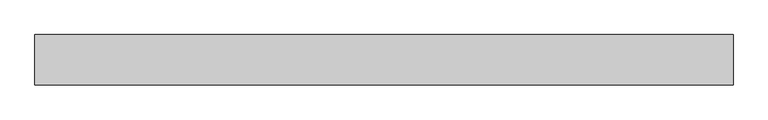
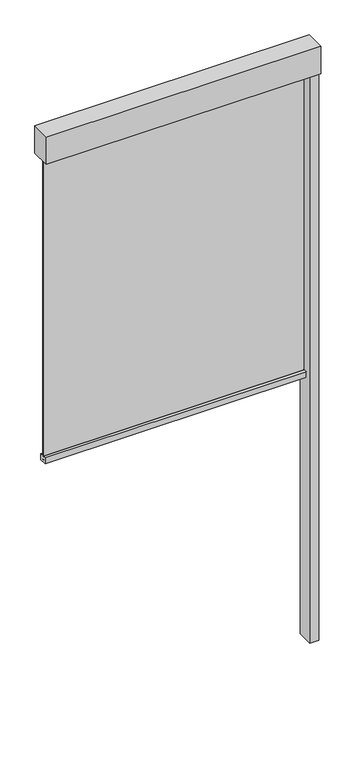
"""IFC4 building model written with IfcOpenShell, lengths in millimetres: proxy geometry, Renson_Fixscreen_Minimal_CW50_End : For curtain wall - End element - Access downwards - Fabric close to the window."""

from ifc_helpers import new_model, si_unit, point, frame, frame_2d, origin, origin_with_axes, place, context, project, spatial, polyline, circle_curve, trimmed, segment, composite_curve, outline, extrude, source, transform, mapped, element, save


def generic_models_74c36e77(model_context):
    return source(origin(), model_context, "Body", "SweptSolid", [
        extrude(outline(polyline([(530.0, -693.5959909), (530.0, -783.5959909), (480.0, -783.5959909), (480.0, -693.5959909), (530.0, -693.5959909)])), origin_with_axes(), (0.0, 0.0, 1.0), 3340.0),
        extrude(outline(polyline([(-995.0, -693.5959909), (530.0, -693.5959909), (530.0, -803.5959909), (-995.0, -803.5959909), (-995.0, -693.5959909)])), frame((0.0, 0.0, 3340.0), z_axis=(0.0, 0.0, 1.0), x_axis=(1.0, 0.0, 0.0)), (0.0, 0.0, 1.0), 160.0),
        extrude(outline(composite_curve([segment(polyline([(-708.5959909, 1540.0), (-749.0958874, 1540.0), (-749.0958874, 1574.1156826), (-731.9717779, 1575.0000198)]), True, "CONTINUOUS"), segment(trimmed(circle_curve(frame_2d((-731.9459909, 1574.5006852)), 0.5), [point((-731.9717779, 1575.0000198))], [point((-731.4459909, 1574.5006852))], False, "CARTESIAN"), True, "CONTINUOUS"), segment(polyline([(-731.4459909, 1574.5006852), (-731.4459909, 1573.5367989), (-732.7111292, 1573.5367989), (-731.9708257, 1569.0119223)]), True, "CONTINUOUS"), segment(trimmed(circle_curve(frame_2d((-771.4459909, 1562.5534911)), 40.0), [point((-731.9708257, 1569.0119223))], [point((-731.4459909, 1562.5534911))], False, "CARTESIAN"), True, "CONTINUOUS"), segment(polyline([(-731.4459909, 1562.5534911), (-731.4459909, 1554.5006852)]), True, "CONTINUOUS"), segment(trimmed(circle_curve(frame_2d((-729.4459909, 1554.5006852)), 2.0), [point((-731.4459909, 1554.5006852))], [point((-729.4459909, 1552.5006852))], True, "CARTESIAN"), True, "CONTINUOUS"), segment(polyline([(-729.4459909, 1552.5006852), (-727.7459909, 1552.5006852)]), True, "CONTINUOUS"), segment(trimmed(circle_curve(frame_2d((-727.7459909, 1554.5006852)), 2.0), [point((-727.7459909, 1552.5006852))], [point((-725.7459909, 1554.5006852))], True, "CARTESIAN"), True, "CONTINUOUS"), segment(polyline([(-725.7459909, 1554.5006852), (-725.7459909, 1562.5534911)]), True, "CONTINUOUS"), segment(trimmed(circle_curve(frame_2d((-685.7459909, 1562.5534911)), 40.0), [point((-725.7459909, 1562.5534911))], [point((-725.221156, 1569.0119223))], False, "CARTESIAN"), True, "CONTINUOUS"), segment(polyline([(-725.221156, 1569.0119223), (-724.4808525, 1573.5367989), (-725.7459909, 1573.5367989), (-725.7459909, 1574.5006852)]), True, "CONTINUOUS"), segment(trimmed(circle_curve(frame_2d((-725.2459909, 1574.5006852)), 0.5), [point((-725.7459909, 1574.5006852))], [point((-725.2194276, 1574.9999791))], False, "CARTESIAN"), True, "CONTINUOUS"), segment(polyline([(-725.2194276, 1574.9999791), (-708.5959909, 1574.1156826), (-708.5959909, 1540.0)]), True, "CONTINUOUS")], self_intersect=False)), frame((-970.0, 0.0, 0.0), z_axis=(1.0, 0.0, 0.0), x_axis=(0.0, 1.0, 0.0)), (0.0, 0.0, 1.0), 1450.0),
        extrude(outline(polyline([(-970.0, -730.0959909), (-970.0, -727.0959909), (480.0, -727.0959909), (480.0, -730.0959909), (-970.0, -730.0959909)])), frame((0.0, 0.0, 1552.5006852), z_axis=(0.0, 0.0, 1.0), x_axis=(1.0, 0.0, 0.0)), (0.0, 0.0, 1.0), 1787.4993148),
    ])


if __name__ == "__main__":
    model = new_model("IFC4")
    model_context = context("Model", 3, world=origin())
    ifc_project = project(units=[si_unit("LENGTHUNIT", "METRE", prefix="MILLI")], contexts=[model_context])
    site = spatial("IfcSite", under=ifc_project)
    building = spatial("IfcBuilding", under=site)
    placement = place(None, origin())
    generic_models_shape = generic_models_74c36e77(model_context)
    element("IfcBuildingElementProxy", 1, Name="Renson_Fixscreen_Minimal_CW50_End : For curtain wall - End element - Access downwards - Fabric close to the window", ObjectType="Renson_Fixscreen_Minimal_CW50_End : For curtain wall - End element - Access downwards - Fabric close to the window", at=placement, inside=building, context=model_context, shape_type="MappedRepresentation", body=[
        mapped(generic_models_shape, transform((0.0, 0.0, 0.0), x_axis=(1.0, 0.0, 0.0), y_axis=(0.0, 1.0, 0.0), z_axis=(0.0, 0.0, 1.0))),
    ])
    save(model, "model.ifc")
